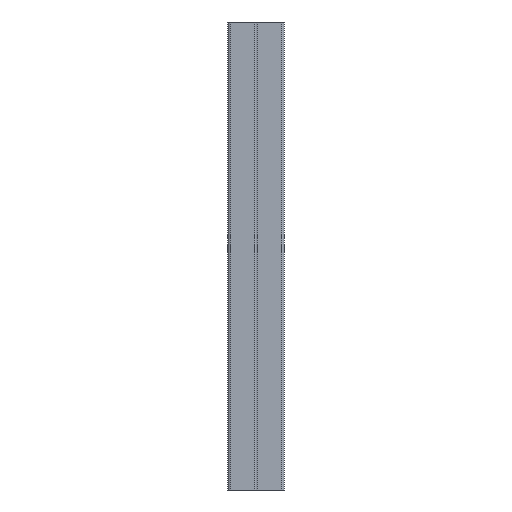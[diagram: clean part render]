
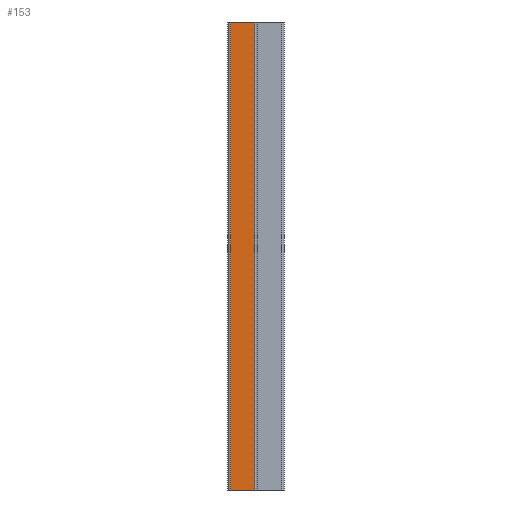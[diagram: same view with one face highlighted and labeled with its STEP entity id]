
A CAD part, front view. The second image highlights one B-rep face of the part: STEP entity #153.
In plain terms, the highlighted planar face has unit normal (0, -1, 0).
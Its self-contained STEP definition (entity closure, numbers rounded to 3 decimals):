
#19 = DIRECTION ( 'NONE',  ( 0., -1., 0. ) ) ;
#45 = DIRECTION ( 'NONE',  ( 1., 0., 0. ) ) ;
#106 = EDGE_CURVE ( 'NONE', #203, #680, #147, .T. ) ;
#147 = LINE ( 'NONE', #427, #999 ) ;
#153 = ADVANCED_FACE ( 'NONE', ( #766 ), #948, .T. ) ;
#191 = CARTESIAN_POINT ( 'NONE',  ( -42., -15., 250. ) ) ;
#203 = VERTEX_POINT ( 'NONE', #1238 ) ;
#215 = ORIENTED_EDGE ( 'NONE', *, *, #578, .T. ) ;
#293 = CARTESIAN_POINT ( 'NONE',  ( -45., -15., -250. ) ) ;
#308 = DIRECTION ( 'NONE',  ( 0., 0., -1. ) ) ;
#384 = ORIENTED_EDGE ( 'NONE', *, *, #106, .F. ) ;
#393 = LINE ( 'NONE', #293, #934 ) ;
#427 = CARTESIAN_POINT ( 'NONE',  ( -16.35, -15., 250. ) ) ;
#442 = CARTESIAN_POINT ( 'NONE',  ( -45., -15., -250. ) ) ;
#447 = LINE ( 'NONE', #675, #845 ) ;
#448 = EDGE_CURVE ( 'NONE', #573, #203, #447, .T. ) ;
#573 = VERTEX_POINT ( 'NONE', #191 ) ;
#578 = EDGE_CURVE ( 'NONE', #913, #680, #393, .T. ) ;
#632 = CARTESIAN_POINT ( 'NONE',  ( -42., -15., -250. ) ) ;
#668 = DIRECTION ( 'NONE',  ( 1., 0., 0. ) ) ;
#675 = CARTESIAN_POINT ( 'NONE',  ( -45., -15., 250. ) ) ;
#680 = VERTEX_POINT ( 'NONE', #687 ) ;
#687 = CARTESIAN_POINT ( 'NONE',  ( -16.35, -15., -250. ) ) ;
#766 = FACE_OUTER_BOUND ( 'NONE', #930, .T. ) ;
#833 = EDGE_CURVE ( 'NONE', #573, #913, #1244, .T. ) ;
#845 = VECTOR ( 'NONE', #45, 1000. ) ;
#848 = DIRECTION ( 'NONE',  ( 0., 0., -1. ) ) ;
#913 = VERTEX_POINT ( 'NONE', #1183 ) ;
#930 = EDGE_LOOP ( 'NONE', ( #994, #1087, #215, #384 ) ) ;
#934 = VECTOR ( 'NONE', #1340, 1000. ) ;
#948 = PLANE ( 'NONE',  #1145 ) ;
#956 = VECTOR ( 'NONE', #308, 1000. ) ;
#994 = ORIENTED_EDGE ( 'NONE', *, *, #448, .F. ) ;
#999 = VECTOR ( 'NONE', #848, 1000. ) ;
#1087 = ORIENTED_EDGE ( 'NONE', *, *, #833, .T. ) ;
#1145 = AXIS2_PLACEMENT_3D ( 'NONE', #442, #19, #668 ) ;
#1183 = CARTESIAN_POINT ( 'NONE',  ( -42., -15., -250. ) ) ;
#1238 = CARTESIAN_POINT ( 'NONE',  ( -16.35, -15., 250. ) ) ;
#1244 = LINE ( 'NONE', #632, #956 ) ;
#1340 = DIRECTION ( 'NONE',  ( 1., 0., 0. ) ) ;
